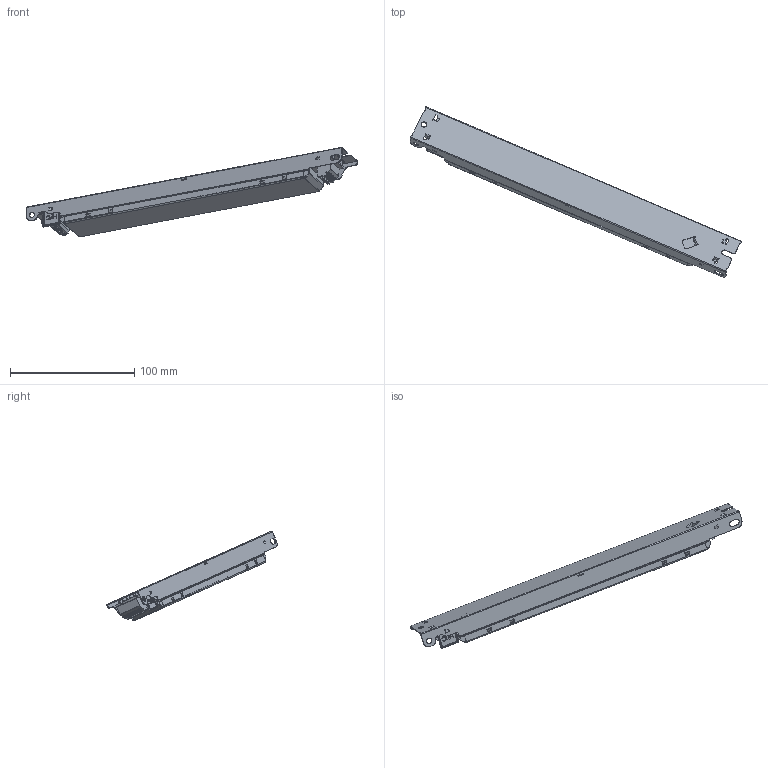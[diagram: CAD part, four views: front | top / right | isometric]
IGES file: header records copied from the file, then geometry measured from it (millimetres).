
Start section: SolidWorks IGES file using analytic representation for surfaces
Global section: file name: C:\Users\vuorinen_kari\Desktop\prj\LL50SE-CC-350-1400\LL50SE-CC-350-1400.IGS; native system: SolidWorks 2014; preprocessor: SolidWorks 2014; author: vuorinen_kari; date: 190820.085323; units: millimetre
Bounding box: 266.45 x 136.88 x 72 mm (x, y, z)
Surface area: 71680.9 mm2 (no closed solid volume)
Topology: 0 solids, 0 shells, 1330 faces, 9827 edges, 9823 vertices
Faces by surface type: bspline 930, revolution 400
